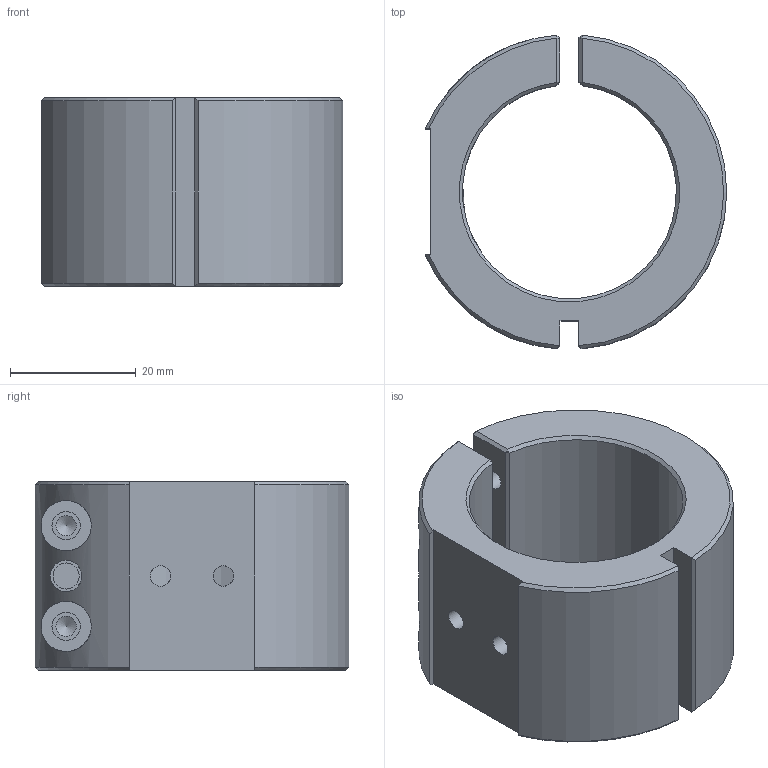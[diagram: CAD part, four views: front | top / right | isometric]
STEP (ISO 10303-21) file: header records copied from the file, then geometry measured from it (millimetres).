
FILE_DESCRIPTION((''),'2;1');
FILE_NAME('Z:\Systeme\Neue_Zeichnungen\Z3005595-01.stp','2012-10-15T10:43:16',('11000116'),(''),'Autodesk Inventor 2012','Autodesk Inventor 2012','');
FILE_SCHEMA(('AUTOMOTIVE_DESIGN { 1 0 10303 214 1 1 1 1 }'));
Length unit declared in the file: millimetre
Products named in the file (1): Z3005595-01
Bounding box: 47.91 x 49.84 x 30 mm (x, y, z)
Volume: 27693.8 mm3; surface area: 11058.3 mm2
Topology: 1 solids, 1 shells, 71 faces, 176 edges, 110 vertices
Faces by surface type: bspline 24, plane 23, cylinder 14, cone 10
Full cylindrical faces by diameter (mm): 3.242 x4, 4.134 x1, 4.5 x2, 5 x1
Entity records: 3036 total; most frequent: CARTESIAN_POINT 1579, ORIENTED_EDGE 320, DIRECTION 220, EDGE_CURVE 160, VERTEX_POINT 104, EDGE_LOOP 94, AXIS2_PLACEMENT_3D 79, FACE_OUTER_BOUND 71
